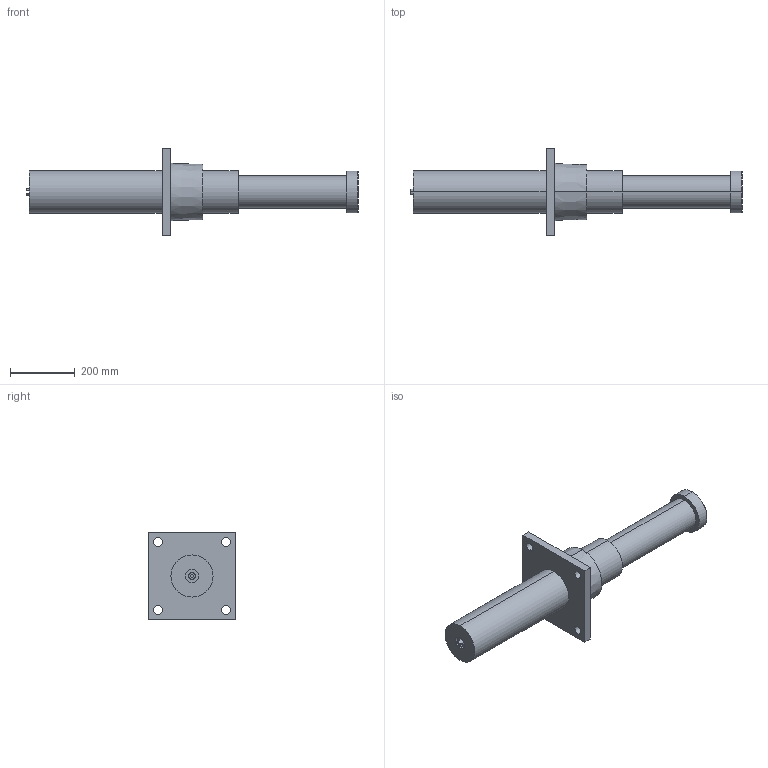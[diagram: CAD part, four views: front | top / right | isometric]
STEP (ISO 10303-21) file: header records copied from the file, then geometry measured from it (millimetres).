
FILE_DESCRIPTION (( 'STEP AP214' ), '1' );
FILE_NAME ('LDH130X300FF.STEP', '2019-01-21T05:01:26', ( 'user' ), ( 'Microsoft' ), 'SwSTEP 2.0', 'SolidWorks 2016', '' );
FILE_SCHEMA (( 'AUTOMOTIVE_DESIGN' ));
Length unit declared in the file: millimetre
Products named in the file (1): LDH130X300FF
Bounding box: 1025 x 270 x 270 mm (x, y, z)
Volume: 14113057.9 mm3; surface area: 575030.7 mm2
Topology: 1 solids, 5 shells, 63 faces, 136 edges, 90 vertices
Faces by surface type: cylinder 30, plane 29, cone 4
Entity records: 1790 total; most frequent: DIRECTION 338, CARTESIAN_POINT 290, ORIENTED_EDGE 272, AXIS2_PLACEMENT_3D 138, EDGE_CURVE 136, VERTEX_POINT 90, EDGE_LOOP 78, CIRCLE 74
